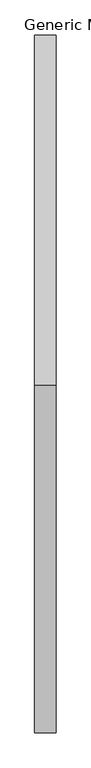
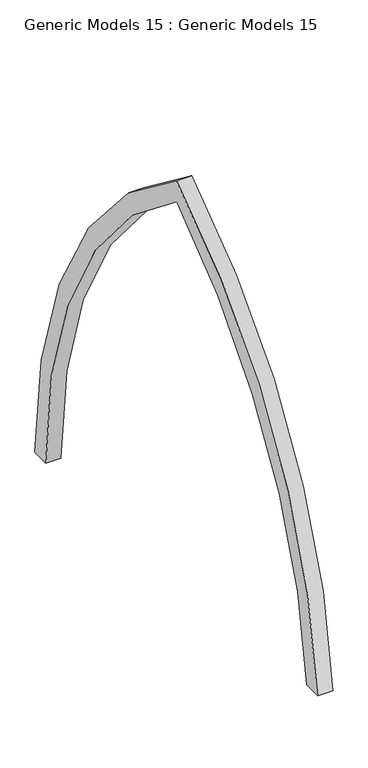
"""IFC4 building model written with IfcOpenShell, lengths in millimetres: proxy geometry, Generic Models 15 : Generic Models 15."""

from ifc_helpers import new_model, si_unit, point, frame, frame_2d, origin, place, context, project, spatial, polyline, circle_curve, trimmed, segment, composite_curve, outline, extrude, source, transform, mapped, element, save


def generic_models_15_generic_models_15_efa755f4(model_context):
    return source(origin(), model_context, "Body", "SweptSolid", [
        extrude(outline(composite_curve([segment(trimmed(circle_curve(frame_2d((11828.4977909, 4587.5644347)), 1350.0), [point((10482.5626898, 4692.2482609))], [point((11128.4977909, 5741.9040728))], False, "CARTESIAN"), True, "CONTINUOUS"), segment(trimmed(circle_curve(frame_2d((10428.4977909, 4587.5644347)), 1350.0), [point((11128.4977909, 5741.9040728))], [point((11778.4977909, 4587.5644347))], False, "CARTESIAN"), True, "CONTINUOUS"), segment(polyline([(11778.4977909, 4587.5644347), (11728.4977909, 4587.5644347)]), True, "CONTINUOUS"), segment(trimmed(circle_curve(frame_2d((10428.4977909, 4587.5644347)), 1300.0), [point((11728.4977909, 4587.5644347))], [point((11128.4977909, 5683.0095497))], True, "CARTESIAN"), True, "CONTINUOUS"), segment(trimmed(circle_curve(frame_2d((11828.4977909, 4587.5644347)), 1300.0), [point((11128.4977909, 5683.0095497))], [point((10532.7195319, 4692.2482609))], True, "CARTESIAN"), True, "CONTINUOUS"), segment(polyline([(10532.7195319, 4692.2482609), (10482.5626898, 4692.2482609)]), True, "CONTINUOUS")], self_intersect=False)), frame((12494.8001123, 0.0, 0.0), z_axis=(1.0, 0.0, 0.0), x_axis=(0.0, 1.0, 0.0)), (0.0, 0.0, 1.0), 40.0),
    ])


if __name__ == "__main__":
    model = new_model("IFC4")
    model_context = context("Model", 3, world=origin())
    ifc_project = project(units=[si_unit("LENGTHUNIT", "METRE", prefix="MILLI")], contexts=[model_context])
    site = spatial("IfcSite", under=ifc_project)
    building = spatial("IfcBuilding", under=site)
    placement = place(None, origin())
    generic_models_15_generic_models_15_shape = generic_models_15_generic_models_15_efa755f4(model_context)
    element("IfcBuildingElementProxy", 1, Name="Generic Models 15 : Generic Models 15", ObjectType="Generic Models 15 : Generic Models 15", at=placement, inside=building, context=model_context, shape_type="MappedRepresentation", body=[
        mapped(generic_models_15_generic_models_15_shape, transform((0.0, 0.0, 0.0), x_axis=(1.0, 0.0, 0.0), y_axis=(0.0, 1.0, 0.0), z_axis=(0.0, 0.0, 1.0))),
    ])
    save(model, "model.ifc")
